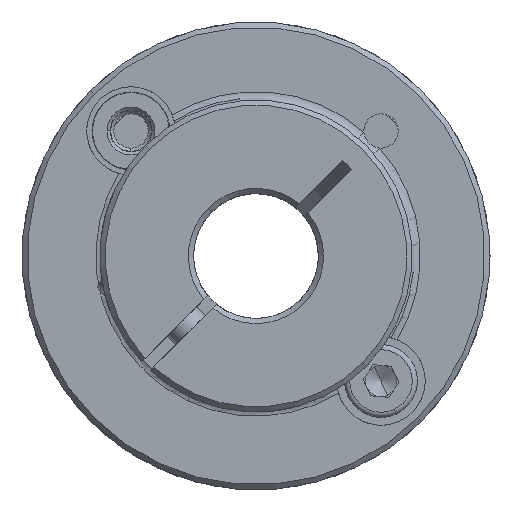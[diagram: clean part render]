
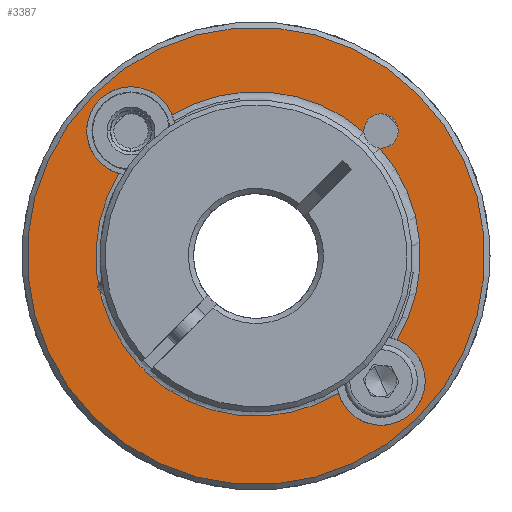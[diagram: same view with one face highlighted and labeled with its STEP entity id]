
A CAD part, front view. The second image highlights one B-rep face of the part: STEP entity #3387.
In plain terms, the highlighted planar face has unit normal (0, -1, 0).
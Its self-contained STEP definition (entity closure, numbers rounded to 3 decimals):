
#70 = CIRCLE ( 'NONE', #6423, 15.4 ) ;
#78 = CIRCLE ( 'NONE', #9978, 15.8 ) ;
#290 = CARTESIAN_POINT ( 'NONE',  ( 1.943, -12.641, 58.188 ) ) ;
#301 = EDGE_CURVE ( 'NONE', #2784, #9863, #8600, .T. ) ;
#318 = DIRECTION ( 'NONE',  ( 0., 1., 0. ) ) ;
#336 = CARTESIAN_POINT ( 'NONE',  ( -8.911, -12.641, 45. ) ) ;
#408 = B_SPLINE_CURVE_WITH_KNOTS ( 'NONE', 3,
 ( #12344, #6363, #8901, #13397 ),
 .UNSPECIFIED., .F., .F.,
 ( 4, 4 ),
 ( 0., 1. ),
 .UNSPECIFIED. ) ;
#474 = EDGE_CURVE ( 'NONE', #3008, #5954, #14546, .T. ) ;
#680 = CIRCLE ( 'NONE', #1426, 1.65 ) ;
#699 = AXIS2_PLACEMENT_3D ( 'NONE', #9616, #318, #11758 ) ;
#891 = DIRECTION ( 'NONE',  ( -0.707, 0., 0.707 ) ) ;
#901 = AXIS2_PLACEMENT_3D ( 'NONE', #12754, #2341, #5856 ) ;
#920 = DIRECTION ( 'NONE',  ( -0.707, 0., 0.707 ) ) ;
#981 = AXIS2_PLACEMENT_3D ( 'NONE', #11739, #10670, #2459 ) ;
#982 = DIRECTION ( 'NONE',  ( -0.707, 0., 0.707 ) ) ;
#1005 = CARTESIAN_POINT ( 'NONE',  ( 3.006, -12.641, 55.374 ) ) ;
#1109 = CARTESIAN_POINT ( 'NONE',  ( -23.937, -12.641, 60.026 ) ) ;
#1426 = AXIS2_PLACEMENT_3D ( 'NONE', #1944, #7810, #3233 ) ;
#1615 = DIRECTION ( 'NONE',  ( 0., 1., 0. ) ) ;
#1699 = DIRECTION ( 'NONE',  ( -0.707, 0., 0.707 ) ) ;
#1721 = VERTEX_POINT ( 'NONE', #11449 ) ;
#1873 = DIRECTION ( 'NONE',  ( 0., 1., 0. ) ) ;
#1904 = CARTESIAN_POINT ( 'NONE',  ( -20.068, -12.641, 34.385 ) ) ;
#1944 = CARTESIAN_POINT ( 'NONE',  ( 3.11, -12.641, 57.021 ) ) ;
#2341 = DIRECTION ( 'NONE',  ( 0., 1., 0. ) ) ;
#2459 = DIRECTION ( 'NONE',  ( -0.707, 0., 0.707 ) ) ;
#2536 = DIRECTION ( 'NONE',  ( -0.707, 0., 0.707 ) ) ;
#2704 = ORIENTED_EDGE ( 'NONE', *, *, #11126, .T. ) ;
#2745 = CARTESIAN_POINT ( 'NONE',  ( 3.11, -12.641, 57.021 ) ) ;
#2784 = VERTEX_POINT ( 'NONE', #1005 ) ;
#2794 = VERTEX_POINT ( 'NONE', #13750 ) ;
#3008 = VERTEX_POINT ( 'NONE', #290 ) ;
#3104 = DIRECTION ( 'NONE',  ( -0.707, 0., 0.707 ) ) ;
#3157 = AXIS2_PLACEMENT_3D ( 'NONE', #2745, #1615, #1699 ) ;
#3164 = EDGE_CURVE ( 'NONE', #11308, #3008, #680, .T. ) ;
#3194 = ORIENTED_EDGE ( 'NONE', *, *, #7736, .T. ) ;
#3233 = DIRECTION ( 'NONE',  ( -0.707, 0., 0.707 ) ) ;
#3387 = ADVANCED_FACE ( 'NONE', ( #11876, #10598 ), #6661, .T. ) ;
#3458 = DIRECTION ( 'NONE',  ( 0., -1., 0. ) ) ;
#3501 = DIRECTION ( 'NONE',  ( 0., 1., 0. ) ) ;
#3574 = ORIENTED_EDGE ( 'NONE', *, *, #5358, .T. ) ;
#3595 = ORIENTED_EDGE ( 'NONE', *, *, #3164, .T. ) ;
#4221 = CARTESIAN_POINT ( 'NONE',  ( -0.974, -12.641, 31.803 ) ) ;
#4770 = CARTESIAN_POINT ( 'NONE',  ( -8.911, -12.641, 45. ) ) ;
#5043 = ORIENTED_EDGE ( 'NONE', *, *, #301, .T. ) ;
#5067 = EDGE_CURVE ( 'NONE', #2794, #5567, #13268, .T. ) ;
#5211 = AXIS2_PLACEMENT_3D ( 'NONE', #13683, #11422, #920 ) ;
#5260 = EDGE_CURVE ( 'NONE', #12399, #11308, #78, .T. ) ;
#5358 = EDGE_CURVE ( 'NONE', #5954, #2784, #10364, .T. ) ;
#5375 = ORIENTED_EDGE ( 'NONE', *, *, #9051, .T. ) ;
#5508 = VERTEX_POINT ( 'NONE', #13431 ) ;
#5567 = VERTEX_POINT ( 'NONE', #4221 ) ;
#5598 = CARTESIAN_POINT ( 'NONE',  ( -8.911, -12.641, 45. ) ) ;
#5856 = DIRECTION ( 'NONE',  ( -0.707, 0., 0.707 ) ) ;
#5954 = VERTEX_POINT ( 'NONE', #10794 ) ;
#6223 = AXIS2_PLACEMENT_3D ( 'NONE', #11466, #3501, #8379 ) ;
#6363 = CARTESIAN_POINT ( 'NONE',  ( -19.663, -12.641, 34.067 ) ) ;
#6421 = ORIENTED_EDGE ( 'NONE', *, *, #5067, .T. ) ;
#6423 = AXIS2_PLACEMENT_3D ( 'NONE', #5598, #12582, #3104 ) ;
#6556 = EDGE_CURVE ( 'NONE', #9865, #5508, #14120, .T. ) ;
#6660 = ORIENTED_EDGE ( 'NONE', *, *, #8350, .T. ) ;
#6661 = PLANE ( 'NONE',  #5211 ) ;
#6675 = ORIENTED_EDGE ( 'NONE', *, *, #6556, .T. ) ;
#6726 = CARTESIAN_POINT ( 'NONE',  ( -16.98, -12.641, 58.584 ) ) ;
#6738 = CARTESIAN_POINT ( 'NONE',  ( 3.11, -12.641, 32.979 ) ) ;
#6823 = ORIENTED_EDGE ( 'NONE', *, *, #474, .T. ) ;
#7223 = ORIENTED_EDGE ( 'NONE', *, *, #5260, .T. ) ;
#7485 = AXIS2_PLACEMENT_3D ( 'NONE', #336, #10642, #2536 ) ;
#7551 = DIRECTION ( 'NONE',  ( -0.707, 0., 0.707 ) ) ;
#7719 = ORIENTED_EDGE ( 'NONE', *, *, #11226, .T. ) ;
#7731 = CIRCLE ( 'NONE', #14240, 22. ) ;
#7736 = EDGE_CURVE ( 'NONE', #12863, #10711, #9943, .T. ) ;
#7810 = DIRECTION ( 'NONE',  ( 0., 1., 0. ) ) ;
#7914 = ORIENTED_EDGE ( 'NONE', *, *, #10686, .T. ) ;
#8183 = CARTESIAN_POINT ( 'NONE',  ( 1.463, -12.641, 56.917 ) ) ;
#8261 = DIRECTION ( 'NONE',  ( -0.707, 0., 0.707 ) ) ;
#8350 = EDGE_CURVE ( 'NONE', #10711, #12399, #14431, .T. ) ;
#8379 = DIRECTION ( 'NONE',  ( -0.707, 0., 0.707 ) ) ;
#8600 = CIRCLE ( 'NONE', #7485, 15.8 ) ;
#8901 = CARTESIAN_POINT ( 'NONE',  ( -19.844, -12.641, 34.248 ) ) ;
#9013 = CARTESIAN_POINT ( 'NONE',  ( 3.11, -12.641, 57.021 ) ) ;
#9051 = EDGE_CURVE ( 'NONE', #5508, #9865, #7731, .T. ) ;
#9340 = CARTESIAN_POINT ( 'NONE',  ( -8.911, -12.641, 45. ) ) ;
#9434 = DIRECTION ( 'NONE',  ( 0., 1., 0. ) ) ;
#9571 = CARTESIAN_POINT ( 'NONE',  ( -8.911, -12.641, 45. ) ) ;
#9616 = CARTESIAN_POINT ( 'NONE',  ( -20.932, -12.641, 57.021 ) ) ;
#9684 = AXIS2_PLACEMENT_3D ( 'NONE', #6738, #14698, #982 ) ;
#9863 = VERTEX_POINT ( 'NONE', #14392 ) ;
#9865 = VERTEX_POINT ( 'NONE', #12003 ) ;
#9909 = AXIS2_PLACEMENT_3D ( 'NONE', #9013, #1873, #891 ) ;
#9943 = CIRCLE ( 'NONE', #699, 4.25 ) ;
#9978 = AXIS2_PLACEMENT_3D ( 'NONE', #9571, #14305, #7551 ) ;
#10364 = CIRCLE ( 'NONE', #3157, 1.65 ) ;
#10515 = VERTEX_POINT ( 'NONE', #1904 ) ;
#10536 = AXIS2_PLACEMENT_3D ( 'NONE', #4770, #9434, #8261 ) ;
#10598 = FACE_OUTER_BOUND ( 'NONE', #12415, .T. ) ;
#10642 = DIRECTION ( 'NONE',  ( 0., 1., 0. ) ) ;
#10670 = DIRECTION ( 'NONE',  ( 0., -1., 0. ) ) ;
#10686 = EDGE_CURVE ( 'NONE', #9863, #2794, #13285, .T. ) ;
#10711 = VERTEX_POINT ( 'NONE', #1109 ) ;
#10794 = CARTESIAN_POINT ( 'NONE',  ( 4.277, -12.641, 55.854 ) ) ;
#11126 = EDGE_CURVE ( 'NONE', #1721, #10515, #408, .T. ) ;
#11226 = EDGE_CURVE ( 'NONE', #10515, #12863, #70, .T. ) ;
#11272 = CARTESIAN_POINT ( 'NONE',  ( -22.108, -12.641, 52.937 ) ) ;
#11308 = VERTEX_POINT ( 'NONE', #8183 ) ;
#11422 = DIRECTION ( 'NONE',  ( 0., -1., 0. ) ) ;
#11449 = CARTESIAN_POINT ( 'NONE',  ( -19.526, -12.641, 33.843 ) ) ;
#11466 = CARTESIAN_POINT ( 'NONE',  ( 3.11, -12.641, 32.979 ) ) ;
#11739 = CARTESIAN_POINT ( 'NONE',  ( -8.911, -12.641, 45. ) ) ;
#11758 = DIRECTION ( 'NONE',  ( -0.707, 0., 0.707 ) ) ;
#11876 = FACE_BOUND ( 'NONE', #14139, .T. ) ;
#12003 = CARTESIAN_POINT ( 'NONE',  ( -24.467, -12.641, 60.556 ) ) ;
#12344 = CARTESIAN_POINT ( 'NONE',  ( -19.526, -12.641, 33.843 ) ) ;
#12399 = VERTEX_POINT ( 'NONE', #6726 ) ;
#12415 = EDGE_LOOP ( 'NONE', ( #5375, #6675 ) ) ;
#12582 = DIRECTION ( 'NONE',  ( 0., 1., 0. ) ) ;
#12686 = DIRECTION ( 'NONE',  ( -0.707, 0., 0.707 ) ) ;
#12754 = CARTESIAN_POINT ( 'NONE',  ( -20.932, -12.641, 57.021 ) ) ;
#12854 = CIRCLE ( 'NONE', #10536, 15.4 ) ;
#12863 = VERTEX_POINT ( 'NONE', #11272 ) ;
#13268 = CIRCLE ( 'NONE', #9684, 4.25 ) ;
#13285 = CIRCLE ( 'NONE', #6223, 4.25 ) ;
#13397 = CARTESIAN_POINT ( 'NONE',  ( -20.068, -12.641, 34.385 ) ) ;
#13431 = CARTESIAN_POINT ( 'NONE',  ( 6.646, -12.641, 29.444 ) ) ;
#13582 = EDGE_CURVE ( 'NONE', #5567, #1721, #12854, .T. ) ;
#13670 = ORIENTED_EDGE ( 'NONE', *, *, #13582, .T. ) ;
#13683 = CARTESIAN_POINT ( 'NONE',  ( -8.911, -12.641, 45. ) ) ;
#13750 = CARTESIAN_POINT ( 'NONE',  ( 6.115, -12.641, 29.974 ) ) ;
#14120 = CIRCLE ( 'NONE', #981, 22. ) ;
#14139 = EDGE_LOOP ( 'NONE', ( #7719, #3194, #6660, #7223, #3595, #6823, #3574, #5043, #7914, #6421, #13670, #2704 ) ) ;
#14240 = AXIS2_PLACEMENT_3D ( 'NONE', #9340, #3458, #12686 ) ;
#14305 = DIRECTION ( 'NONE',  ( 0., 1., 0. ) ) ;
#14392 = CARTESIAN_POINT ( 'NONE',  ( 4.674, -12.641, 36.931 ) ) ;
#14431 = CIRCLE ( 'NONE', #901, 4.25 ) ;
#14546 = CIRCLE ( 'NONE', #9909, 1.65 ) ;
#14698 = DIRECTION ( 'NONE',  ( 0., 1., 0. ) ) ;
